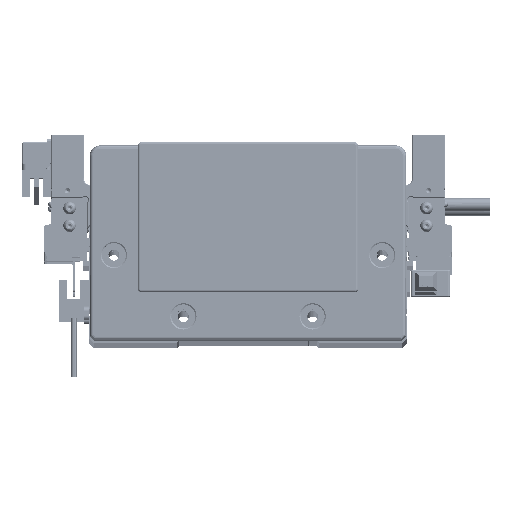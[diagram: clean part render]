
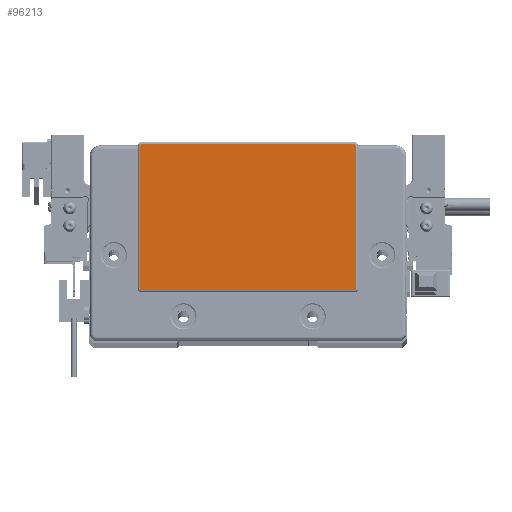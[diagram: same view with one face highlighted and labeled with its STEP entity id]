
A CAD part, top view. The second image highlights one B-rep face of the part: STEP entity #96213.
In plain terms, the highlighted planar face has unit normal (0, 0, 1) as drawn and (0, 0, -1) by its records, which use the part's own axes.
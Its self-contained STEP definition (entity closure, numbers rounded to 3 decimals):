
#236 = VERTEX_POINT ( 'NONE', #108006 ) ;
#330 = DIRECTION ( 'NONE',  ( 0., 0., -1. ) ) ;
#2572 = VECTOR ( 'NONE', #85124, 1000. ) ;
#2638 = VECTOR ( 'NONE', #47933, 1000. ) ;
#7447 = CARTESIAN_POINT ( 'NONE',  ( 48.75, 44.3, -2. ) ) ;
#8384 = VERTEX_POINT ( 'NONE', #27090 ) ;
#8477 = AXIS2_PLACEMENT_3D ( 'NONE', #68212, #330, #103876 ) ;
#10840 = EDGE_CURVE ( 'NONE', #32327, #62404, #77636, .T. ) ;
#12188 = VECTOR ( 'NONE', #104282, 1000. ) ;
#12462 = EDGE_CURVE ( 'NONE', #236, #31084, #45108, .T. ) ;
#14380 = ORIENTED_EDGE ( 'NONE', *, *, #26235, .T. ) ;
#15880 = FACE_OUTER_BOUND ( 'NONE', #42849, .T. ) ;
#18027 = DIRECTION ( 'NONE',  ( -1., 0., 0. ) ) ;
#18579 = CARTESIAN_POINT ( 'NONE',  ( 48.75, 43.8, -2. ) ) ;
#20110 = DIRECTION ( 'NONE',  ( 0., 0., -1. ) ) ;
#24056 = DIRECTION ( 'NONE',  ( -1., 0., 0. ) ) ;
#24335 = CARTESIAN_POINT ( 'NONE',  ( 49.25, -21.8, -2. ) ) ;
#25546 = ORIENTED_EDGE ( 'NONE', *, *, #106695, .T. ) ;
#26235 = EDGE_CURVE ( 'NONE', #62404, #62581, #46717, .T. ) ;
#26860 = VERTEX_POINT ( 'NONE', #69824 ) ;
#27090 = CARTESIAN_POINT ( 'NONE',  ( 49.25, -21.8, -2. ) ) ;
#28422 = CIRCLE ( 'NONE', #99999, 0.5 ) ;
#28902 = CIRCLE ( 'NONE', #52788, 0.5 ) ;
#31084 = VERTEX_POINT ( 'NONE', #33613 ) ;
#31632 = CARTESIAN_POINT ( 'NONE',  ( 49.25, 43.8, -2. ) ) ;
#32327 = VERTEX_POINT ( 'NONE', #110291 ) ;
#33613 = CARTESIAN_POINT ( 'NONE',  ( -48.75, -22.3, -2. ) ) ;
#39272 = EDGE_CURVE ( 'NONE', #31084, #80073, #28902, .T. ) ;
#40683 = EDGE_CURVE ( 'NONE', #26860, #32327, #75045, .T. ) ;
#41760 = LINE ( 'NONE', #103289, #84545 ) ;
#42469 = DIRECTION ( 'NONE',  ( 0., 0., -1. ) ) ;
#42849 = EDGE_LOOP ( 'NONE', ( #47234, #94069, #43877, #99989, #25546, #113428, #54852, #14380 ) ) ;
#42894 = DIRECTION ( 'NONE',  ( 0., 1., 0. ) ) ;
#43877 = ORIENTED_EDGE ( 'NONE', *, *, #12462, .T. ) ;
#45108 = LINE ( 'NONE', #91646, #2638 ) ;
#46717 = CIRCLE ( 'NONE', #110999, 0.5 ) ;
#47234 = ORIENTED_EDGE ( 'NONE', *, *, #83695, .T. ) ;
#47933 = DIRECTION ( 'NONE',  ( -1., 0., 0. ) ) ;
#51928 = LINE ( 'NONE', #24335, #12188 ) ;
#52788 = AXIS2_PLACEMENT_3D ( 'NONE', #98901, #20110, #63238 ) ;
#53514 = CARTESIAN_POINT ( 'NONE',  ( 48.75, -21.8, -2. ) ) ;
#54852 = ORIENTED_EDGE ( 'NONE', *, *, #10840, .T. ) ;
#62404 = VERTEX_POINT ( 'NONE', #91482 ) ;
#62581 = VERTEX_POINT ( 'NONE', #31632 ) ;
#62684 = DIRECTION ( 'NONE',  ( 0., 0., -1. ) ) ;
#63238 = DIRECTION ( 'NONE',  ( -1., 0., 0. ) ) ;
#68212 = CARTESIAN_POINT ( 'NONE',  ( 0., 0., -2. ) ) ;
#68293 = EDGE_CURVE ( 'NONE', #8384, #236, #28422, .T. ) ;
#69824 = CARTESIAN_POINT ( 'NONE',  ( -49.25, 43.8, -2. ) ) ;
#75045 = CIRCLE ( 'NONE', #108131, 0.5 ) ;
#77002 = CARTESIAN_POINT ( 'NONE',  ( -48.75, 43.8, -2. ) ) ;
#77636 = LINE ( 'NONE', #7447, #2572 ) ;
#79139 = PLANE ( 'NONE',  #8477 ) ;
#80073 = VERTEX_POINT ( 'NONE', #92886 ) ;
#83695 = EDGE_CURVE ( 'NONE', #62581, #8384, #51928, .T. ) ;
#84545 = VECTOR ( 'NONE', #42894, 1000. ) ;
#85124 = DIRECTION ( 'NONE',  ( 1., 0., 0. ) ) ;
#88596 = DIRECTION ( 'NONE',  ( -1., 0., 0. ) ) ;
#91482 = CARTESIAN_POINT ( 'NONE',  ( 48.75, 44.3, -2. ) ) ;
#91646 = CARTESIAN_POINT ( 'NONE',  ( -48.75, -22.3, -2. ) ) ;
#92886 = CARTESIAN_POINT ( 'NONE',  ( -49.25, -21.8, -2. ) ) ;
#94069 = ORIENTED_EDGE ( 'NONE', *, *, #68293, .T. ) ;
#95665 = DIRECTION ( 'NONE',  ( 0., 0., -1. ) ) ;
#96213 = ADVANCED_FACE ( 'NONE', ( #15880 ), #79139, .T. ) ;
#98901 = CARTESIAN_POINT ( 'NONE',  ( -48.75, -21.8, -2. ) ) ;
#99989 = ORIENTED_EDGE ( 'NONE', *, *, #39272, .T. ) ;
#99999 = AXIS2_PLACEMENT_3D ( 'NONE', #53514, #62684, #88596 ) ;
#103289 = CARTESIAN_POINT ( 'NONE',  ( -49.25, 43.8, -2. ) ) ;
#103876 = DIRECTION ( 'NONE',  ( -1., 0., 0. ) ) ;
#104282 = DIRECTION ( 'NONE',  ( 0., -1., 0. ) ) ;
#106695 = EDGE_CURVE ( 'NONE', #80073, #26860, #41760, .T. ) ;
#108006 = CARTESIAN_POINT ( 'NONE',  ( 48.75, -22.3, -2. ) ) ;
#108131 = AXIS2_PLACEMENT_3D ( 'NONE', #77002, #42469, #24056 ) ;
#110291 = CARTESIAN_POINT ( 'NONE',  ( -48.75, 44.3, -2. ) ) ;
#110999 = AXIS2_PLACEMENT_3D ( 'NONE', #18579, #95665, #18027 ) ;
#113428 = ORIENTED_EDGE ( 'NONE', *, *, #40683, .T. ) ;
